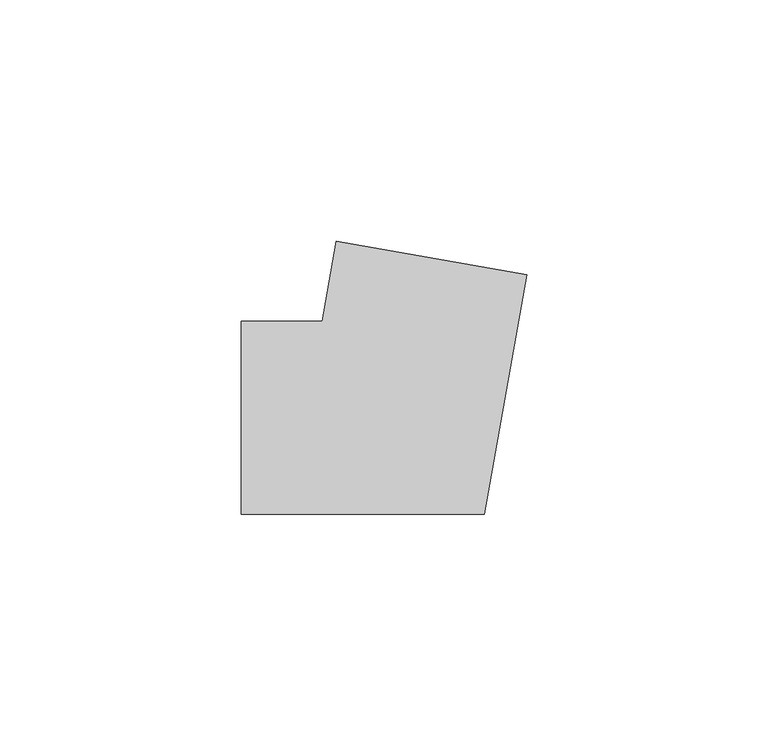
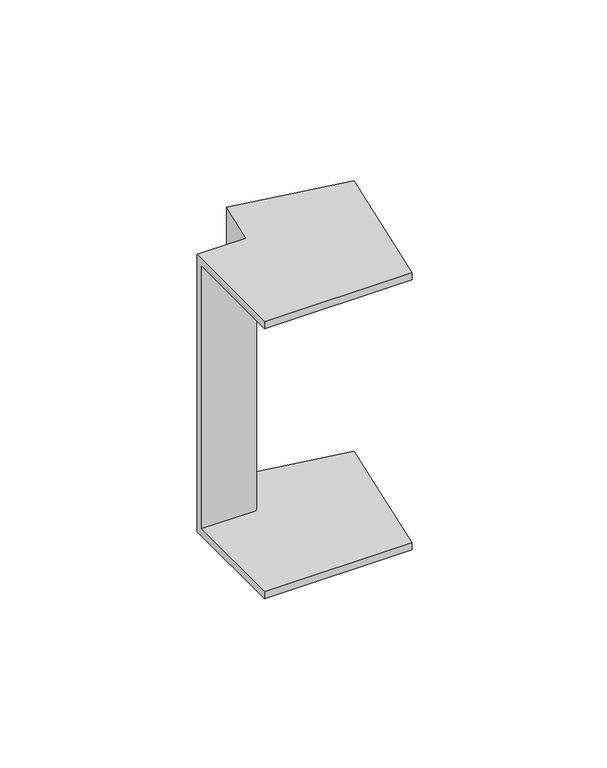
"""IFC4 building model written with IfcOpenShell, lengths in millimetres: cable carrier fitting geometry, КНС_УголВнешний_ILC_DKC : Угол внешний_DKC."""

import ifcopenshell
import ifcopenshell.guid

model = None  # the IFC model being written
_history = None  # IfcOwnerHistory: only IFC2X3 demands one
_inside = {}  # id of a spatial element -> (the spatial element, [elements in it])
_under = {}  # id of a project, library or spatial element -> (it, [spatial elements below it])
_declared = {}  # id of a project -> (the project, [libraries it declares])
_typed = {}  # id of a type object -> (the type object, [elements of that type])
_made_of = {}  # id of a material, layer set ... -> (it, [elements and type objects made of it])


def new_model(schema):
    """Start an empty IFC model of exactly this schema.

    Asked for "IFC4X3", IfcOpenShell would pick the latest addendum, in which some entities
    have other attributes; the version numbers below select the first issue.
    IFC2X3 requires an IfcOwnerHistory on every rooted entity: one is made here for all.
    """
    global model, _history
    if schema == "IFC4X3":
        model = ifcopenshell.file(schema_version=(4, 3, 0, 0))
    else:
        model = ifcopenshell.file(schema=schema)
    _inside.clear()
    _under.clear()
    _declared.clear()
    _typed.clear()
    _made_of.clear()
    _history = None
    if model.schema == "IFC2X3":
        org = make("IfcOrganization", Name="unknown")
        user = make(
            "IfcPersonAndOrganization",
            ThePerson=make("IfcPerson", FamilyName="unknown"),
            TheOrganization=org,
        )
        app = make(
            "IfcApplication",
            ApplicationDeveloper=org,
            Version="unknown",
            ApplicationFullName="unknown",
            ApplicationIdentifier="unknown",
        )
        _history = make(
            "IfcOwnerHistory",
            OwningUser=user,
            OwningApplication=app,
            ChangeAction="ADDED",
            CreationDate=0,
        )
    return model


def make(cls, **values):
    """One entity of the class cls with the attributes given. An attribute that is None is left unset."""
    return model.create_entity(
        cls, **{name: value for name, value in values.items() if value is not None}
    )


def rooted(cls, **values):
    """An entity with a GlobalId (a new one), such as an element, a storey or a relation."""
    return make(cls, GlobalId=ifcopenshell.guid.new(), OwnerHistory=_history, **values)


def si_unit(unit_type, name, prefix=None):
    """IfcSIUnit, for example si_unit("LENGTHUNIT", "METRE", prefix="MILLI")."""
    return make("IfcSIUnit", UnitType=unit_type, Prefix=prefix, Name=name)


def assignment(units):
    """IfcUnitAssignment: the units of a project."""
    return None if units is None else make("IfcUnitAssignment", Units=units)


def point(xyz):
    """IfcCartesianPoint."""
    return None if xyz is None else make("IfcCartesianPoint", Coordinates=xyz)


def direction(xyz):
    """IfcDirection."""
    return None if xyz is None else make("IfcDirection", DirectionRatios=xyz)


def frame(location, z_axis=None, x_axis=None):
    """IfcAxis2Placement3D, a coordinate frame: its origin and axes. An axis left out is left unset."""
    return make(
        "IfcAxis2Placement3D",
        Location=point(location),
        Axis=direction(z_axis),
        RefDirection=direction(x_axis),
    )


def origin():
    """The frame at (0, 0, 0) with its axes left unset."""
    return frame((0.0, 0.0, 0.0))


def place(relative_to, where):
    """IfcLocalPlacement: puts the frame where relative to a parent placement (None: the world)."""
    return make(
        "IfcLocalPlacement", PlacementRelTo=relative_to, RelativePlacement=where
    )


def context(
    kind, dimensions, precision=None, world=None, true_north=None, identifier=None
):
    """IfcGeometricRepresentationContext, for example the 3D "Model" context."""
    return make(
        "IfcGeometricRepresentationContext",
        ContextIdentifier=identifier,
        ContextType=kind,
        CoordinateSpaceDimension=dimensions,
        Precision=precision,
        WorldCoordinateSystem=world,
        TrueNorth=true_north,
    )


def project(units=None, contexts=None):
    """IfcProject with its units and contexts."""
    return rooted(
        "IfcProject",
        Name="project",
        RepresentationContexts=contexts,
        UnitsInContext=assignment(units),
    )


def spatial(cls, under=None, at=None, **own):
    """A site, building, storey or space (cls), placed at a placement, below another one or the project."""
    s = rooted(cls, ObjectPlacement=at, **own)
    if under is not None:
        _under.setdefault(under.id(), (under, []))[1].append(s)
    return s


def faces_of(points, faces, orient=None, outer=None):
    """IfcFace entities. A face is a list of loops; a loop is a list of indices into points, from 0.

    orient and outer hold one flag for each loop. By default every Orientation is true, the
    first loop of a face is its IfcFaceOuterBound and the others are IfcFaceBound.
    """
    made = []
    for i, loops in enumerate(faces):
        bounds = []
        for j, loop in enumerate(loops):
            is_outer = j == 0 if outer is None else outer[i][j]
            bounds.append(
                make(
                    "IfcFaceOuterBound" if is_outer else "IfcFaceBound",
                    Bound=make("IfcPolyLoop", Polygon=[points[k] for k in loop]),
                    Orientation=True if orient is None else orient[i][j],
                )
            )
        made.append(make("IfcFace", Bounds=bounds))
    return made


def faceted_brep(points, faces, orient=None, outer=None, voids=None):
    """IfcFacetedBrep: a solid bounded by flat faces; with voids (closed shells), ...WithVoids."""
    shared = [point(p) for p in points]
    hull = make("IfcClosedShell", CfsFaces=faces_of(shared, faces, orient, outer))
    if voids is None:
        return make("IfcFacetedBrep", Outer=hull)
    return make(
        "IfcFacetedBrepWithVoids",
        Outer=hull,
        Voids=[
            make(cls, CfsFaces=faces_of(shared, fs, o, b)) for cls, fs, o, b in voids
        ],
    )


def shape(context_of_items, identifier, shape_type, items):
    """IfcShapeRepresentation: the items that make up one representation, for example the "Body"."""
    return make(
        "IfcShapeRepresentation",
        ContextOfItems=context_of_items,
        RepresentationIdentifier=identifier,
        RepresentationType=shape_type,
        Items=items,
    )


def source(mapping_origin, context_of_items, identifier, shape_type, items):
    """IfcRepresentationMap: a shape defined once, which mapped items show again and again."""
    return make(
        "IfcRepresentationMap",
        MappingOrigin=mapping_origin,
        MappedRepresentation=shape(context_of_items, identifier, shape_type, items),
    )


def transform(
    local_origin,
    x_axis=None,
    y_axis=None,
    z_axis=None,
    scale=None,
    scale2=None,
    scale3=None,
    uniform=True,
):
    """IfcCartesianTransformationOperator3D, or its non-uniform kind. x_axis, y_axis, z_axis: its Axis1, 2, 3."""
    if uniform:
        return make(
            "IfcCartesianTransformationOperator3D",
            Axis1=direction(x_axis),
            Axis2=direction(y_axis),
            LocalOrigin=point(local_origin),
            Scale=scale,
            Axis3=direction(z_axis),
        )
    return make(
        "IfcCartesianTransformationOperator3DnonUniform",
        Axis1=direction(x_axis),
        Axis2=direction(y_axis),
        LocalOrigin=point(local_origin),
        Scale=scale,
        Axis3=direction(z_axis),
        Scale2=scale2,
        Scale3=scale3,
    )


def mapped(mapping_source, mapping_target):
    """IfcMappedItem: shows the shape of a source again, moved by a transform."""
    return make(
        "IfcMappedItem", MappingSource=mapping_source, MappingTarget=mapping_target
    )


def made_of(thing, what):
    """Note that an element or type object is made of a material, layer set ...; save() writes the relation."""
    if what is not None:
        _made_of.setdefault(what.id(), (what, []))[1].append(thing)
    return thing


def element(
    cls,
    number,
    at=None,
    inside=None,
    cuts=None,
    type_object=None,
    material=None,
    context=None,
    identifier="Body",
    shape_type=None,
    held_by="IfcProductDefinitionShape",
    body=None,
    shapes=None,
    **own,
):
    """One element of the class cls, such as IfcWall. Its Tag is "e" and its number.

    at: its placement. inside: the storey or other place that contains it. cuts: it is an
    opening in that element (IfcRelVoidsElement). A single representation is given by context,
    identifier, shape_type and body (its items); several are given by shapes. held_by: the class
    of the entity that holds the representations. save() writes the other relations.
    """
    e = rooted(cls, Tag="e%d" % number, ObjectPlacement=at, **own)
    if body is not None:
        shapes = [shape(context, identifier, shape_type, body)]
    if shapes is not None:
        e.Representation = make(held_by, Representations=shapes)
    if inside is not None:
        _inside.setdefault(inside.id(), (inside, []))[1].append(e)
    if cuts is not None:
        rooted(
            "IfcRelVoidsElement", RelatingBuildingElement=cuts, RelatedOpeningElement=e
        )
    if type_object is not None:
        _typed.setdefault(type_object.id(), (type_object, []))[1].append(e)
    return made_of(e, material)


def aggregate(whole, parts):
    """IfcRelAggregates: a whole, such as a stair, and the parts it consists of."""
    return rooted("IfcRelAggregates", RelatingObject=whole, RelatedObjects=parts)


def save(model, path):
    """Write the relations noted so far, then the file.

    IfcRelAggregates (storeys below a building ...), IfcRelContainedInSpatialStructure (elements
    in a storey), IfcRelDefinesByType, IfcRelAssociatesMaterial and IfcRelDeclares: one each for
    every whole, place, type object, material and project.
    """
    for whole, parts in _under.values():
        aggregate(whole, parts)
    for where, things in _inside.values():
        rooted(
            "IfcRelContainedInSpatialStructure",
            RelatedElements=things,
            RelatingStructure=where,
        )
    for kind, things in _typed.values():
        rooted("IfcRelDefinesByType", RelatedObjects=things, RelatingType=kind)
    for what, things in _made_of.values():
        rooted("IfcRelAssociatesMaterial", RelatedObjects=things, RelatingMaterial=what)
    for by, libraries in _declared.values():
        rooted("IfcRelDeclares", RelatingContext=by, RelatedDefinitions=libraries)
    model.write(path)


def cable_carrier_fitting_0f8daf25(model_context):
    return source(origin(), model_context, "Body", "Brep", [
        faceted_brep([(-33.5639852, 20.0, 50.0), (-33.5639852, 20.0, -50.0), (-33.5639852, -20.0, -50.0), (-33.5639852, -20.0, -47.5), (-33.5639852, 17.5, -47.5), (-33.5639852, 17.5, 47.5), (-33.5639852, -20.0, 47.5), (-33.5639852, -20.0, 50.0), (-13.8678302, 36.5270364, 50.0), (25.5244799, 29.5811093, 50.0), (25.5244799, 29.5811093, 47.5), (-11.4058108, 36.092916, 47.5), (-11.4058108, 36.092916, -47.5), (25.5244799, 29.5811093, -47.5), (25.5244799, 29.5811093, -50.0), (-13.8678302, 36.5270364, -50.0), (-16.7819926, 20.0, 50.0), (-16.7819926, 20.0, -50.0), (16.7819926, -20.0, -50.0), (16.7819926, -20.0, -47.5), (-14.6842435, 17.5, -47.5), (-14.6842435, 17.5, 47.5), (16.7819926, -20.0, 47.5), (16.7819926, -20.0, 50.0)], [[[0, 1, 2, 3, 4, 5, 6, 7]], [[8, 9, 10, 11, 12, 13, 14, 15]], [[1, 0, 16, 17]], [[2, 1, 17, 15, 14, 18]], [[3, 2, 18, 19]], [[4, 3, 19, 13, 12, 20]], [[5, 4, 20, 21]], [[6, 5, 21, 11, 10, 22]], [[7, 6, 22, 23]], [[0, 7, 23, 9, 8, 16]], [[17, 16, 8, 15]], [[19, 18, 14, 13]], [[21, 20, 12, 11]], [[23, 22, 10, 9]]]),
    ])


if __name__ == "__main__":
    model = new_model("IFC4")
    model_context = context("Model", 3, world=origin())
    ifc_project = project(units=[si_unit("LENGTHUNIT", "METRE", prefix="MILLI")], contexts=[model_context])
    site = spatial("IfcSite", under=ifc_project)
    building = spatial("IfcBuilding", under=site)
    placement = place(None, origin())
    cable_carrier_fitting_shape = cable_carrier_fitting_0f8daf25(model_context)
    element("IfcCableCarrierFitting", 1, ObjectType="КНС_УголВнешний_ILC_DKC : Угол внешний_DKC", at=placement, inside=building, context=model_context, shape_type="MappedRepresentation", body=[
        mapped(cable_carrier_fitting_shape, transform((0.0, 0.0, 0.0), x_axis=(1.0, 0.0, 0.0), y_axis=(0.0, 1.0, 0.0), z_axis=(0.0, 0.0, 1.0))),
    ])
    save(model, "model.ifc")
